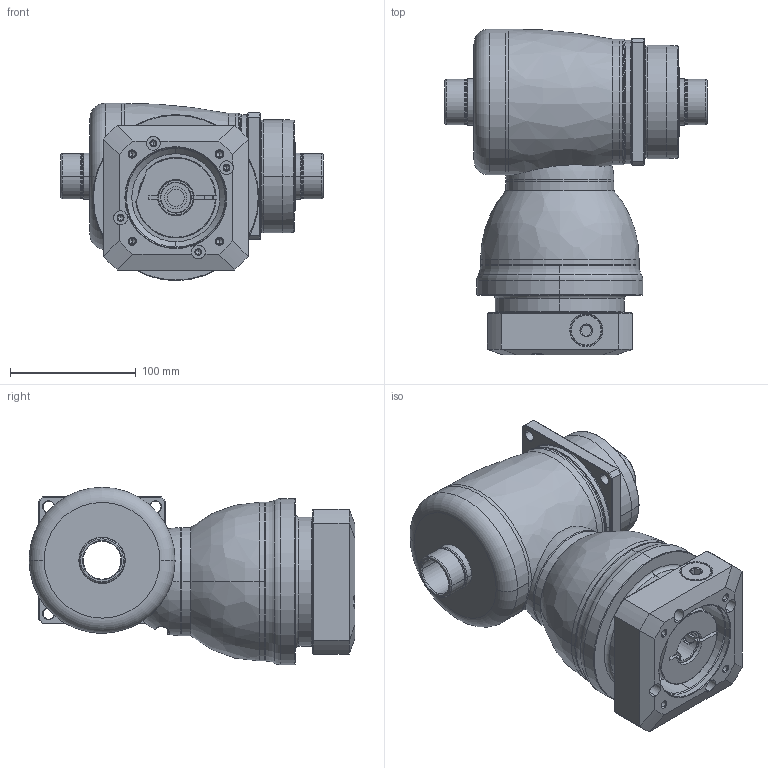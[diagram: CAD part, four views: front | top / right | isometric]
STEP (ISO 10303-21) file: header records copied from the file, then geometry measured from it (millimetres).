
FILE_DESCRIPTION((''),'2;1');
FILE_NAME('KF100_S4_1ST_24-P0409500101_ASM','2016-07-15T',('d01943'),(''),'PRO/ENGINEER BY PARAMETRIC TECHNOLOGY CORPORATION, 2008410','PRO/ENGINEER BY PARAMETRIC TECHNOLOGY CORPORATION, 2008410','');
FILE_SCHEMA(('CONFIG_CONTROL_DESIGN'));
Length unit declared in the file: millimetre
Products named in the file (11): P1008400002; P1804400001; P0914400001; P1315400001; P1007400001; P1318400101; P0409500101; P0503500010; P0912401001; 21711418017; KF100_S4_1ST_24-P0409500101_ASM
Assembly tree (10 placements, depth 2):
  KF100_S4_1ST_24-P0409500101_ASM
    P1008400002
    P1804400001
    P0914400001
    P1315400001
    P1007400001
    P1318400101
    P0409500101
    P0503500010
    P0912401001
    21711418017
Bounding box: 208.3 x 259 x 141 mm (x, y, z)
Volume: 2430853.8 mm3; surface area: 378881.6 mm2
Topology: 11 solids, 11 shells, 533 faces, 1196 edges, 708 vertices
Faces by surface type: cylinder 188, cone 134, plane 105, torus 68, bspline 36, sphere 2
Entity records: 20953 total; most frequent: CARTESIAN_POINT 8845, DIRECTION 2670, ORIENTED_EDGE 2356, EDGE_CURVE 1178, AXIS2_PLACEMENT_3D 1134, VERTEX_POINT 708, CIRCLE 616, EDGE_LOOP 612
